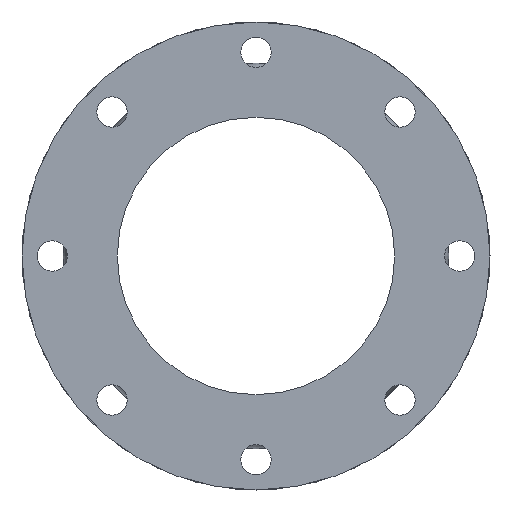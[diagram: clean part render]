
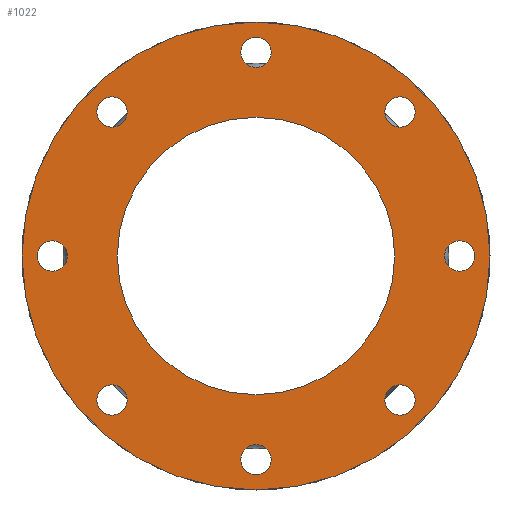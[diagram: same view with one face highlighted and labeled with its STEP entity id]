
A CAD part, left-side view. The second image highlights one B-rep face of the part: STEP entity #1022.
In plain terms, the highlighted planar face has unit normal (-1, 0, 0).
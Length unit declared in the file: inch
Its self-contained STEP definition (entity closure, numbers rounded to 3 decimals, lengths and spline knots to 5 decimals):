
#135=CARTESIAN_POINT('',(-3.0,4.46361,4.46361));
#136=VERTEX_POINT('',#135);
#137=CARTESIAN_POINT('',(-3.0,4.15425,4.15425));
#138=DIRECTION('',(1.0,0.0,0.0));
#139=DIRECTION('',(0.0,-0.707,-0.707));
#140=AXIS2_PLACEMENT_3D('',#137,#138,#139);
#141=CIRCLE('',#140,0.4375);
#142=EDGE_CURVE('',#136,#136,#141,.T.);
#163=CARTESIAN_POINT('',(-3.0,6.3125,0.));
#164=VERTEX_POINT('',#163);
#165=CARTESIAN_POINT('',(-3.0,5.875,0.));
#166=DIRECTION('',(1.0,0.0,0.0));
#167=DIRECTION('',(0.0,-1.0,0.0));
#168=AXIS2_PLACEMENT_3D('',#165,#166,#167);
#169=CIRCLE('',#168,0.4375);
#170=EDGE_CURVE('',#164,#164,#169,.T.);
#191=CARTESIAN_POINT('',(-3.0,4.46361,-4.46361));
#192=VERTEX_POINT('',#191);
#193=CARTESIAN_POINT('',(-3.0,4.15425,-4.15425));
#194=DIRECTION('',(1.0,0.0,0.0));
#195=DIRECTION('',(0.0,-0.707,0.707));
#196=AXIS2_PLACEMENT_3D('',#193,#194,#195);
#197=CIRCLE('',#196,0.4375);
#198=EDGE_CURVE('',#192,#192,#197,.T.);
#219=CARTESIAN_POINT('',(-3.0,0.,-6.3125));
#220=VERTEX_POINT('',#219);
#221=CARTESIAN_POINT('',(-3.0,0.,-5.875));
#222=DIRECTION('',(1.0,0.0,0.0));
#223=DIRECTION('',(0.0,0.0,1.0));
#224=AXIS2_PLACEMENT_3D('',#221,#222,#223);
#225=CIRCLE('',#224,0.4375);
#226=EDGE_CURVE('',#220,#220,#225,.T.);
#247=CARTESIAN_POINT('',(-3.0,-4.46361,-4.46361));
#248=VERTEX_POINT('',#247);
#249=CARTESIAN_POINT('',(-3.0,-4.15425,-4.15425));
#250=DIRECTION('',(1.0,0.0,0.0));
#251=DIRECTION('',(0.0,0.707,0.707));
#252=AXIS2_PLACEMENT_3D('',#249,#250,#251);
#253=CIRCLE('',#252,0.4375);
#254=EDGE_CURVE('',#248,#248,#253,.T.);
#275=CARTESIAN_POINT('',(-3.0,-6.3125,0.0));
#276=VERTEX_POINT('',#275);
#277=CARTESIAN_POINT('',(-3.0,-5.875,0.0));
#278=DIRECTION('',(1.0,0.0,0.0));
#279=DIRECTION('',(0.0,1.0,0.0));
#280=AXIS2_PLACEMENT_3D('',#277,#278,#279);
#281=CIRCLE('',#280,0.4375);
#282=EDGE_CURVE('',#276,#276,#281,.T.);
#303=CARTESIAN_POINT('',(-3.0,-4.46361,4.46361));
#304=VERTEX_POINT('',#303);
#305=CARTESIAN_POINT('',(-3.0,-4.15425,4.15425));
#306=DIRECTION('',(1.0,0.0,0.0));
#307=DIRECTION('',(0.0,0.707,-0.707));
#308=AXIS2_PLACEMENT_3D('',#305,#306,#307);
#309=CIRCLE('',#308,0.4375);
#310=EDGE_CURVE('',#304,#304,#309,.T.);
#331=CARTESIAN_POINT('',(-3.0,0.,6.3125));
#332=VERTEX_POINT('',#331);
#333=CARTESIAN_POINT('',(-3.0,0.0,5.875));
#334=DIRECTION('',(1.0,0.0,0.0));
#335=DIRECTION('',(0.0,0.0,-1.0));
#336=AXIS2_PLACEMENT_3D('',#333,#334,#335);
#337=CIRCLE('',#336,0.4375);
#338=EDGE_CURVE('',#332,#332,#337,.T.);
#583=CARTESIAN_POINT('',(-3.,6.75,0.0));
#584=VERTEX_POINT('',#583);
#585=CARTESIAN_POINT('',(-3.,0.0,0.0));
#586=DIRECTION('',(1.0,0.0,0.0));
#587=DIRECTION('',(0.0,1.0,0.0));
#588=AXIS2_PLACEMENT_3D('',#585,#586,#587);
#589=CIRCLE('',#588,6.75);
#590=EDGE_CURVE('',#584,#584,#589,.T.);
#972=CARTESIAN_POINT('',(-3.0,4.0,0.0));
#973=VERTEX_POINT('',#972);
#974=CARTESIAN_POINT('',(-3.0,0.0,0.0));
#975=DIRECTION('',(1.0,0.0,0.0));
#976=DIRECTION('',(0.0,1.0,0.0));
#977=AXIS2_PLACEMENT_3D('',#974,#975,#976);
#978=CIRCLE('',#977,4.0);
#979=EDGE_CURVE('',#973,#973,#978,.T.);
#987=CARTESIAN_POINT('',(-3.0,5.375,0.0));
#988=DIRECTION('',(-1.0,0.0,0.0));
#989=DIRECTION('',(0.0,0.0,1.0));
#990=AXIS2_PLACEMENT_3D('',#987,#988,#989);
#991=PLANE('',#990);
#992=ORIENTED_EDGE('',*,*,#590,.F.);
#993=EDGE_LOOP('',(#992));
#994=FACE_OUTER_BOUND('',#993,.T.);
#995=ORIENTED_EDGE('',*,*,#142,.T.);
#996=EDGE_LOOP('',(#995));
#997=FACE_BOUND('',#996,.T.);
#998=ORIENTED_EDGE('',*,*,#170,.T.);
#999=EDGE_LOOP('',(#998));
#1000=FACE_BOUND('',#999,.T.);
#1001=ORIENTED_EDGE('',*,*,#198,.T.);
#1002=EDGE_LOOP('',(#1001));
#1003=FACE_BOUND('',#1002,.T.);
#1004=ORIENTED_EDGE('',*,*,#226,.T.);
#1005=EDGE_LOOP('',(#1004));
#1006=FACE_BOUND('',#1005,.T.);
#1007=ORIENTED_EDGE('',*,*,#254,.T.);
#1008=EDGE_LOOP('',(#1007));
#1009=FACE_BOUND('',#1008,.T.);
#1010=ORIENTED_EDGE('',*,*,#282,.T.);
#1011=EDGE_LOOP('',(#1010));
#1012=FACE_BOUND('',#1011,.T.);
#1013=ORIENTED_EDGE('',*,*,#310,.T.);
#1014=EDGE_LOOP('',(#1013));
#1015=FACE_BOUND('',#1014,.T.);
#1016=ORIENTED_EDGE('',*,*,#338,.T.);
#1017=EDGE_LOOP('',(#1016));
#1018=FACE_BOUND('',#1017,.T.);
#1019=ORIENTED_EDGE('',*,*,#979,.T.);
#1020=EDGE_LOOP('',(#1019));
#1021=FACE_BOUND('',#1020,.T.);
#1022=ADVANCED_FACE('',(#994,#997,#1000,#1003,#1006,#1009,#1012,#1015,#1018,#1021),#991,.T.);
